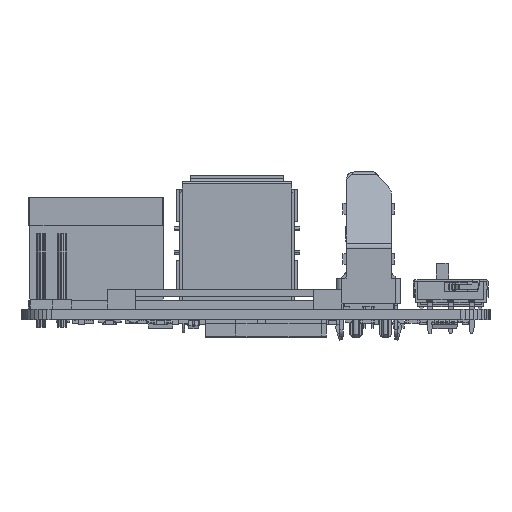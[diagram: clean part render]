
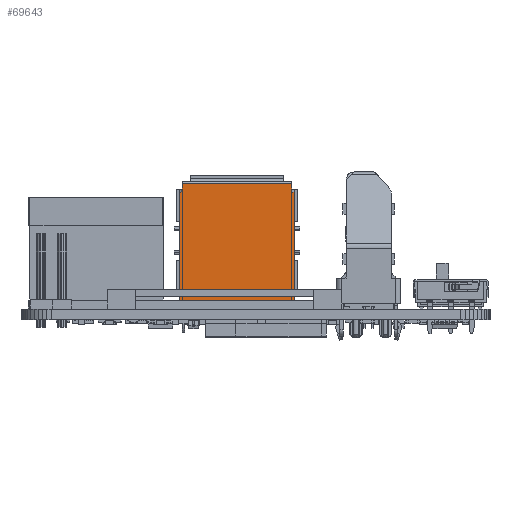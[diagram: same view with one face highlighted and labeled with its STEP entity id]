
A CAD part, left-side view. The second image highlights one B-rep face of the part: STEP entity #69643.
In plain terms, the highlighted planar face has unit normal (-1, 0, 0) as drawn and (0, 0, -1) by its records, which use the part's own axes.
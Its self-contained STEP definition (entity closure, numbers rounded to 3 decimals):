
#56392 = PLANE('',#56393);
#56393 = AXIS2_PLACEMENT_3D('',#56394,#56395,#56396);
#56394 = CARTESIAN_POINT('',(-6.555,7.899,17.));
#56395 = DIRECTION('',(-1.,0.,0.));
#56396 = DIRECTION('',(0.,0.,1.));
#57526 = PLANE('',#57527);
#57527 = AXIS2_PLACEMENT_3D('',#57528,#57529,#57530);
#57528 = CARTESIAN_POINT('',(6.555,-6.331,17.));
#57529 = DIRECTION('',(1.,0.,0.));
#57530 = DIRECTION('',(0.,1.,0.));
#65723 = CYLINDRICAL_SURFACE('',#65724,0.3);
#65724 = AXIS2_PLACEMENT_3D('',#65725,#65726,#65727);
#65725 = CARTESIAN_POINT('',(-6.555,7.599,-0.1));
#65726 = DIRECTION('',(-1.,0.,0.));
#65727 = DIRECTION('',(0.,0.,-1.));
#66176 = PLANE('',#66177);
#66177 = AXIS2_PLACEMENT_3D('',#66178,#66179,#66180);
#66178 = CARTESIAN_POINT('',(-6.555,-7.161,-0.095));
#66179 = DIRECTION('',(0.,-1.,0.));
#66180 = DIRECTION('',(0.,0.,-1.));
#67649 = VERTEX_POINT('',#67650);
#67650 = CARTESIAN_POINT('',(-6.555,7.599,-0.4));
#67675 = EDGE_CURVE('',#67676,#67649,#67678,.T.);
#67676 = VERTEX_POINT('',#67677);
#67677 = CARTESIAN_POINT('',(-6.555,6.594,-0.4));
#67678 = SURFACE_CURVE('',#67679,(#67683,#67690),.PCURVE_S1.);
#67679 = LINE('',#67680,#67681);
#67680 = CARTESIAN_POINT('',(-6.555,6.594,-0.4));
#67681 = VECTOR('',#67682,1.);
#67682 = DIRECTION('',(0.,1.,0.));
#67683 = PCURVE('',#56392,#67684);
#67684 = DEFINITIONAL_REPRESENTATION('',(#67685),#67689);
#67685 = LINE('',#67686,#67687);
#67686 = CARTESIAN_POINT('',(-17.4,-1.305));
#67687 = VECTOR('',#67688,1.);
#67688 = DIRECTION('',(0.,1.));
#67689 = ( GEOMETRIC_REPRESENTATION_CONTEXT(2) 
PARAMETRIC_REPRESENTATION_CONTEXT() REPRESENTATION_CONTEXT('2D SPACE',''
  ) );
#67690 = PCURVE('',#67691,#67696);
#67691 = PLANE('',#67692);
#67692 = AXIS2_PLACEMENT_3D('',#67693,#67694,#67695);
#67693 = CARTESIAN_POINT('',(-6.555,-7.161,-0.4));
#67694 = DIRECTION('',(0.,0.,-1.));
#67695 = DIRECTION('',(0.,-1.,0.));
#67696 = DEFINITIONAL_REPRESENTATION('',(#67697),#67701);
#67697 = LINE('',#67698,#67699);
#67698 = CARTESIAN_POINT('',(-13.755,0.));
#67699 = VECTOR('',#67700,1.);
#67700 = DIRECTION('',(-1.,0.));
#67701 = ( GEOMETRIC_REPRESENTATION_CONTEXT(2) 
PARAMETRIC_REPRESENTATION_CONTEXT() REPRESENTATION_CONTEXT('2D SPACE',''
  ) );
#67719 = PLANE('',#67720);
#67720 = AXIS2_PLACEMENT_3D('',#67721,#67722,#67723);
#67721 = CARTESIAN_POINT('',(-6.555,6.594,-0.4));
#67722 = DIRECTION('',(0.,-1.,0.));
#67723 = DIRECTION('',(0.,0.,-1.));
#68653 = PLANE('',#68654);
#68654 = AXIS2_PLACEMENT_3D('',#68655,#68656,#68657);
#68655 = CARTESIAN_POINT('',(-6.86,0.784,17.));
#68656 = DIRECTION('',(1.,0.,0.));
#68657 = DIRECTION('',(0.,1.,0.));
#69443 = VERTEX_POINT('',#69444);
#69444 = CARTESIAN_POINT('',(6.86,-7.161,-0.4));
#69458 = PLANE('',#69459);
#69459 = AXIS2_PLACEMENT_3D('',#69460,#69461,#69462);
#69460 = CARTESIAN_POINT('',(6.86,0.784,17.));
#69461 = DIRECTION('',(1.,0.,0.));
#69462 = DIRECTION('',(0.,1.,0.));
#69601 = VERTEX_POINT('',#69602);
#69602 = CARTESIAN_POINT('',(-6.86,-7.161,-0.4));
#69623 = EDGE_CURVE('',#69443,#69601,#69624,.T.);
#69624 = SURFACE_CURVE('',#69625,(#69629,#69636),.PCURVE_S1.);
#69625 = LINE('',#69626,#69627);
#69626 = CARTESIAN_POINT('',(6.86,-7.161,-0.4));
#69627 = VECTOR('',#69628,1.);
#69628 = DIRECTION('',(-1.,0.,0.));
#69629 = PCURVE('',#66176,#69630);
#69630 = DEFINITIONAL_REPRESENTATION('',(#69631),#69635);
#69631 = LINE('',#69632,#69633);
#69632 = CARTESIAN_POINT('',(0.305,13.415));
#69633 = VECTOR('',#69634,1.);
#69634 = DIRECTION('',(0.,-1.));
#69635 = ( GEOMETRIC_REPRESENTATION_CONTEXT(2) 
PARAMETRIC_REPRESENTATION_CONTEXT() REPRESENTATION_CONTEXT('2D SPACE',''
  ) );
#69636 = PCURVE('',#67691,#69637);
#69637 = DEFINITIONAL_REPRESENTATION('',(#69638),#69642);
#69638 = LINE('',#69639,#69640);
#69639 = CARTESIAN_POINT('',(0.,-13.415));
#69640 = VECTOR('',#69641,1.);
#69641 = DIRECTION('',(0.,1.));
#69642 = ( GEOMETRIC_REPRESENTATION_CONTEXT(2) 
PARAMETRIC_REPRESENTATION_CONTEXT() REPRESENTATION_CONTEXT('2D SPACE',''
  ) );
#69643 = ADVANCED_FACE('',(#69644),#67691,.T.);
#69644 = FACE_BOUND('',#69645,.T.);
#69645 = EDGE_LOOP('',(#69646,#69668,#69691,#69719,#69740,#69741,#69764,
    #69785));
#69646 = ORIENTED_EDGE('',*,*,#69647,.T.);
#69647 = EDGE_CURVE('',#67649,#69648,#69650,.T.);
#69648 = VERTEX_POINT('',#69649);
#69649 = CARTESIAN_POINT('',(6.555,7.599,-0.4));
#69650 = SURFACE_CURVE('',#69651,(#69655,#69662),.PCURVE_S1.);
#69651 = LINE('',#69652,#69653);
#69652 = CARTESIAN_POINT('',(-6.555,7.599,-0.4));
#69653 = VECTOR('',#69654,1.);
#69654 = DIRECTION('',(1.,0.,0.));
#69655 = PCURVE('',#67691,#69656);
#69656 = DEFINITIONAL_REPRESENTATION('',(#69657),#69661);
#69657 = LINE('',#69658,#69659);
#69658 = CARTESIAN_POINT('',(-14.76,0.));
#69659 = VECTOR('',#69660,1.);
#69660 = DIRECTION('',(0.,-1.));
#69661 = ( GEOMETRIC_REPRESENTATION_CONTEXT(2) 
PARAMETRIC_REPRESENTATION_CONTEXT() REPRESENTATION_CONTEXT('2D SPACE',''
  ) );
#69662 = PCURVE('',#65723,#69663);
#69663 = DEFINITIONAL_REPRESENTATION('',(#69664),#69667);
#69664 = B_SPLINE_CURVE_WITH_KNOTS('',1,(#69665,#69666),.UNSPECIFIED.,
  .F.,.F.,(2,2),(0.,13.11),.PIECEWISE_BEZIER_KNOTS.);
#69665 = CARTESIAN_POINT('',(6.283,0.));
#69666 = CARTESIAN_POINT('',(6.283,-13.11));
#69667 = ( GEOMETRIC_REPRESENTATION_CONTEXT(2) 
PARAMETRIC_REPRESENTATION_CONTEXT() REPRESENTATION_CONTEXT('2D SPACE',''
  ) );
#69668 = ORIENTED_EDGE('',*,*,#69669,.F.);
#69669 = EDGE_CURVE('',#69670,#69648,#69672,.T.);
#69670 = VERTEX_POINT('',#69671);
#69671 = CARTESIAN_POINT('',(6.555,6.594,-0.4));
#69672 = SURFACE_CURVE('',#69673,(#69677,#69684),.PCURVE_S1.);
#69673 = LINE('',#69674,#69675);
#69674 = CARTESIAN_POINT('',(6.555,6.594,-0.4));
#69675 = VECTOR('',#69676,1.);
#69676 = DIRECTION('',(0.,1.,0.));
#69677 = PCURVE('',#67691,#69678);
#69678 = DEFINITIONAL_REPRESENTATION('',(#69679),#69683);
#69679 = LINE('',#69680,#69681);
#69680 = CARTESIAN_POINT('',(-13.755,-13.11));
#69681 = VECTOR('',#69682,1.);
#69682 = DIRECTION('',(-1.,0.));
#69683 = ( GEOMETRIC_REPRESENTATION_CONTEXT(2) 
PARAMETRIC_REPRESENTATION_CONTEXT() REPRESENTATION_CONTEXT('2D SPACE',''
  ) );
#69684 = PCURVE('',#57526,#69685);
#69685 = DEFINITIONAL_REPRESENTATION('',(#69686),#69690);
#69686 = LINE('',#69687,#69688);
#69687 = CARTESIAN_POINT('',(12.925,-17.4));
#69688 = VECTOR('',#69689,1.);
#69689 = DIRECTION('',(1.,0.));
#69690 = ( GEOMETRIC_REPRESENTATION_CONTEXT(2) 
PARAMETRIC_REPRESENTATION_CONTEXT() REPRESENTATION_CONTEXT('2D SPACE',''
  ) );
#69691 = ORIENTED_EDGE('',*,*,#69692,.T.);
#69692 = EDGE_CURVE('',#69670,#69693,#69695,.T.);
#69693 = VERTEX_POINT('',#69694);
#69694 = CARTESIAN_POINT('',(6.86,6.594,-0.4));
#69695 = SURFACE_CURVE('',#69696,(#69700,#69707),.PCURVE_S1.);
#69696 = LINE('',#69697,#69698);
#69697 = CARTESIAN_POINT('',(6.555,6.594,-0.4));
#69698 = VECTOR('',#69699,1.);
#69699 = DIRECTION('',(1.,0.,0.));
#69700 = PCURVE('',#67691,#69701);
#69701 = DEFINITIONAL_REPRESENTATION('',(#69702),#69706);
#69702 = LINE('',#69703,#69704);
#69703 = CARTESIAN_POINT('',(-13.755,-13.11));
#69704 = VECTOR('',#69705,1.);
#69705 = DIRECTION('',(0.,-1.));
#69706 = ( GEOMETRIC_REPRESENTATION_CONTEXT(2) 
PARAMETRIC_REPRESENTATION_CONTEXT() REPRESENTATION_CONTEXT('2D SPACE',''
  ) );
#69707 = PCURVE('',#69708,#69713);
#69708 = PLANE('',#69709);
#69709 = AXIS2_PLACEMENT_3D('',#69710,#69711,#69712);
#69710 = CARTESIAN_POINT('',(6.555,6.594,-0.4));
#69711 = DIRECTION('',(0.,1.,0.));
#69712 = DIRECTION('',(1.,0.,0.));
#69713 = DEFINITIONAL_REPRESENTATION('',(#69714),#69718);
#69714 = LINE('',#69715,#69716);
#69715 = CARTESIAN_POINT('',(0.,0.));
#69716 = VECTOR('',#69717,1.);
#69717 = DIRECTION('',(1.,0.));
#69718 = ( GEOMETRIC_REPRESENTATION_CONTEXT(2) 
PARAMETRIC_REPRESENTATION_CONTEXT() REPRESENTATION_CONTEXT('2D SPACE',''
  ) );
#69719 = ORIENTED_EDGE('',*,*,#69720,.F.);
#69720 = EDGE_CURVE('',#69443,#69693,#69721,.T.);
#69721 = SURFACE_CURVE('',#69722,(#69726,#69733),.PCURVE_S1.);
#69722 = LINE('',#69723,#69724);
#69723 = CARTESIAN_POINT('',(6.86,-7.161,-0.4));
#69724 = VECTOR('',#69725,1.);
#69725 = DIRECTION('',(0.,1.,0.));
#69726 = PCURVE('',#67691,#69727);
#69727 = DEFINITIONAL_REPRESENTATION('',(#69728),#69732);
#69728 = LINE('',#69729,#69730);
#69729 = CARTESIAN_POINT('',(0.,-13.415));
#69730 = VECTOR('',#69731,1.);
#69731 = DIRECTION('',(-1.,0.));
#69732 = ( GEOMETRIC_REPRESENTATION_CONTEXT(2) 
PARAMETRIC_REPRESENTATION_CONTEXT() REPRESENTATION_CONTEXT('2D SPACE',''
  ) );
#69733 = PCURVE('',#69458,#69734);
#69734 = DEFINITIONAL_REPRESENTATION('',(#69735),#69739);
#69735 = LINE('',#69736,#69737);
#69736 = CARTESIAN_POINT('',(-7.945,-17.4));
#69737 = VECTOR('',#69738,1.);
#69738 = DIRECTION('',(1.,0.));
#69739 = ( GEOMETRIC_REPRESENTATION_CONTEXT(2) 
PARAMETRIC_REPRESENTATION_CONTEXT() REPRESENTATION_CONTEXT('2D SPACE',''
  ) );
#69740 = ORIENTED_EDGE('',*,*,#69623,.T.);
#69741 = ORIENTED_EDGE('',*,*,#69742,.T.);
#69742 = EDGE_CURVE('',#69601,#69743,#69745,.T.);
#69743 = VERTEX_POINT('',#69744);
#69744 = CARTESIAN_POINT('',(-6.86,6.594,-0.4));
#69745 = SURFACE_CURVE('',#69746,(#69750,#69757),.PCURVE_S1.);
#69746 = LINE('',#69747,#69748);
#69747 = CARTESIAN_POINT('',(-6.86,-7.161,-0.4));
#69748 = VECTOR('',#69749,1.);
#69749 = DIRECTION('',(0.,1.,0.));
#69750 = PCURVE('',#67691,#69751);
#69751 = DEFINITIONAL_REPRESENTATION('',(#69752),#69756);
#69752 = LINE('',#69753,#69754);
#69753 = CARTESIAN_POINT('',(0.,0.305));
#69754 = VECTOR('',#69755,1.);
#69755 = DIRECTION('',(-1.,0.));
#69756 = ( GEOMETRIC_REPRESENTATION_CONTEXT(2) 
PARAMETRIC_REPRESENTATION_CONTEXT() REPRESENTATION_CONTEXT('2D SPACE',''
  ) );
#69757 = PCURVE('',#68653,#69758);
#69758 = DEFINITIONAL_REPRESENTATION('',(#69759),#69763);
#69759 = LINE('',#69760,#69761);
#69760 = CARTESIAN_POINT('',(-7.945,-17.4));
#69761 = VECTOR('',#69762,1.);
#69762 = DIRECTION('',(1.,0.));
#69763 = ( GEOMETRIC_REPRESENTATION_CONTEXT(2) 
PARAMETRIC_REPRESENTATION_CONTEXT() REPRESENTATION_CONTEXT('2D SPACE',''
  ) );
#69764 = ORIENTED_EDGE('',*,*,#69765,.F.);
#69765 = EDGE_CURVE('',#67676,#69743,#69766,.T.);
#69766 = SURFACE_CURVE('',#69767,(#69771,#69778),.PCURVE_S1.);
#69767 = LINE('',#69768,#69769);
#69768 = CARTESIAN_POINT('',(-6.555,6.594,-0.4));
#69769 = VECTOR('',#69770,1.);
#69770 = DIRECTION('',(-1.,0.,0.));
#69771 = PCURVE('',#67691,#69772);
#69772 = DEFINITIONAL_REPRESENTATION('',(#69773),#69777);
#69773 = LINE('',#69774,#69775);
#69774 = CARTESIAN_POINT('',(-13.755,0.));
#69775 = VECTOR('',#69776,1.);
#69776 = DIRECTION('',(0.,1.));
#69777 = ( GEOMETRIC_REPRESENTATION_CONTEXT(2) 
PARAMETRIC_REPRESENTATION_CONTEXT() REPRESENTATION_CONTEXT('2D SPACE',''
  ) );
#69778 = PCURVE('',#67719,#69779);
#69779 = DEFINITIONAL_REPRESENTATION('',(#69780),#69784);
#69780 = LINE('',#69781,#69782);
#69781 = CARTESIAN_POINT('',(0.,0.));
#69782 = VECTOR('',#69783,1.);
#69783 = DIRECTION('',(0.,-1.));
#69784 = ( GEOMETRIC_REPRESENTATION_CONTEXT(2) 
PARAMETRIC_REPRESENTATION_CONTEXT() REPRESENTATION_CONTEXT('2D SPACE',''
  ) );
#69785 = ORIENTED_EDGE('',*,*,#67675,.T.);
